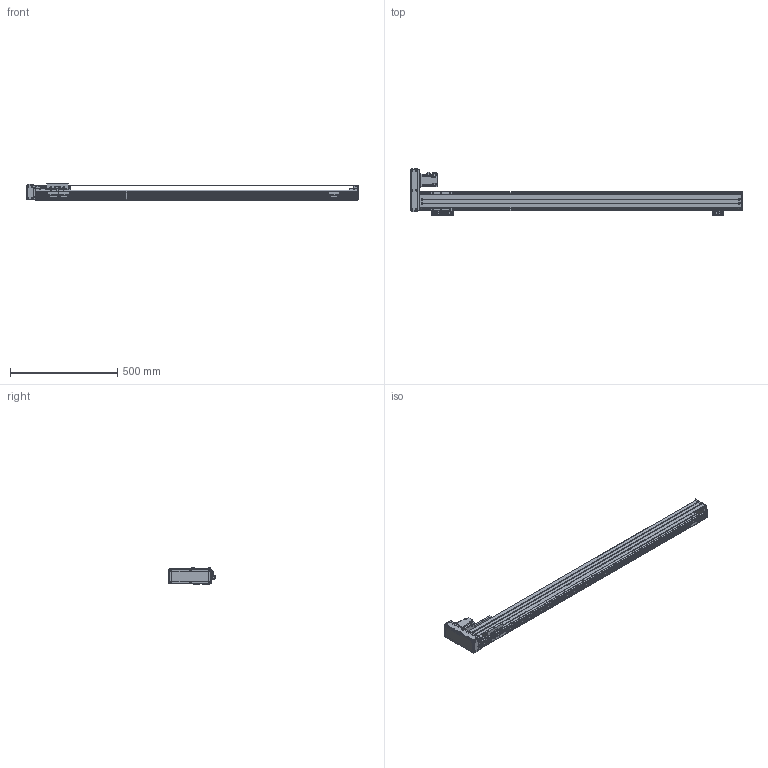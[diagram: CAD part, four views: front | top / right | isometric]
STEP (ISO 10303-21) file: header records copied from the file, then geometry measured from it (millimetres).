
FILE_DESCRIPTION(/* description */ (''),/* implementation_level */ '2;1');
FILE_NAME(/* name */ '\\192.168.0.160\disk1\HAN SHIN Master\B-설계부문\C-표준\B-2024년\BC02-표준도면\+로봇 개선표준도면\표준 승인도 작업 폴더\3D\HG90\HG90병렬\좌병렬\HG90-L20-N1B-1300-R10.stp',/* time_stamp */ '2024-02-16T14:34:45+09:00',/* author */ ('User'),/* organization */ (''),/* preprocessor_version */ 'ST-DEVELOPER v18.1',/* originating_system */ 'Autodesk Inventor 2022',/* authorisation */ '');
FILE_SCHEMA (('AUTOMOTIVE_DESIGN { 1 0 10303 214 3 1 1 }'));
Length unit declared in the file: millimetre
Products named in the file (24): HG90-L20-N1B-0500-R10; HR90 BASE 100W 1BLOCK; HR90 FRONT BLOCK; HR90 REAR BLOCK TENSION; HR90 REAR COVER-TENSION; HG4UPCOV002; HR120 SENSOR DOG; HG90STOPPER - 27L; HG90STOPPER - 20L; HC90-LR-MOTOR PLATE(200W)-사출; MOTOR PLATE-200W(MITSUBISHI); hg-kr23_; 화살표; HR65-LR-BELT COVER; HC90-BELT COVER-COVER3; M-5HL-4; hsr_ftht_A-M6F_grease_nipple_joint; NIPPLE CAP(신규); HR90 TABLE; LMKE1520 NUT; SENSOR BRK(EE-SX674A); EE_SX674A; HR75-D-BELT COVER-COVER; HC90-BELT COVER-COVER2
Assembly tree (31 placements, depth 2):
  HG90-L20-N1B-0500-R10
    HR90 BASE 100W 1BLOCK
    HR90 FRONT BLOCK
    HR90 REAR BLOCK TENSION
    HR90 REAR COVER-TENSION
    HG4UPCOV002
    EE_SX674A  x3
    SENSOR BRK(EE-SX674A)  x3
    HR120 SENSOR DOG
    HG90STOPPER - 27L
    HG90STOPPER - 20L
    HC90-LR-MOTOR PLATE(200W)-사출
    MOTOR PLATE-200W(MITSUBISHI)
    hg-kr23_
    화살표  x2
    HC90-BELT COVER-COVER3  x2
    HR65-LR-BELT COVER
    hsr_ftht_A-M6F_grease_nipple_joint  x2
    NIPPLE CAP(신규)  x2
    M-5HL-4
    HR90 TABLE
    LMKE1520 NUT
    HR75-D-BELT COVER-COVER
    HC90-BELT COVER-COVER2
Bounding box: 1549 x 215 x 75 mm (x, y, z)
Volume: 2732655.9 mm3; surface area: 1160586.4 mm2
Topology: 31 solids, 31 shells, 1593 faces, 4216 edges, 2761 vertices
Faces by surface type: plane 761, cylinder 650, cone 138, sphere 24, torus 12, bspline 8
Full cylindrical faces by diameter (mm): 1.8 x1, 2 x4, 2.459 x38, 2.5 x2, 3 x8, 3.242 x25, 3.4 x20, 3.5 x6, 4 x4, 4.134 x59, 4.5 x16, 4.917 x5, 5 x29, 5.5 x34, 5.6 x10, 5.8 x4, 5.9 x8, 6 x6, 6.5 x5, 7 x1, 8 x1, 9.5 x30, 14 x1, 15 x3, 17 x1, 20 x1, 22 x1, 25 x1, 28 x1, 32 x2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
Entity records: 43293 total; most frequent: CARTESIAN_POINT 8217, DIRECTION 7310, ORIENTED_EDGE 6808, EDGE_CURVE 3404, AXIS2_PLACEMENT_3D 2672, VERTEX_POINT 2262, LINE 1966, VECTOR 1966
